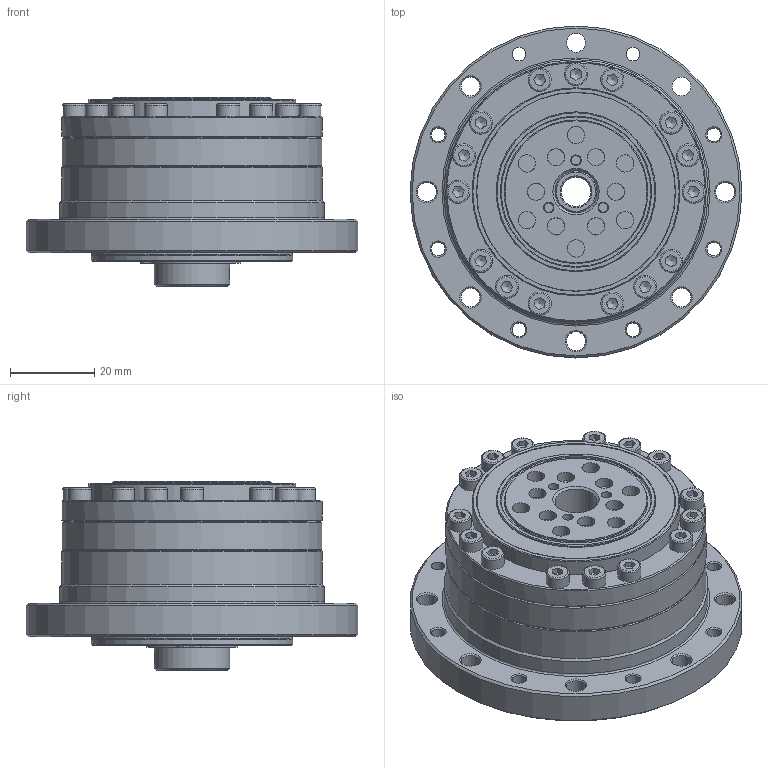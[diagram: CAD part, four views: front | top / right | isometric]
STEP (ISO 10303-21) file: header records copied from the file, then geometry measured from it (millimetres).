
FILE_DESCRIPTION(/* description */ (''),/* implementation_level */ '2;1');
FILE_NAME(/* name */ 'S:\TB00F\研發課二組\機密級\97.\X2\540C4EC151714EAB5340\X0\ (機密級)\H11\欣怡\2023專案追蹤\2.型錄\模型\\X2\5B987DB2\X0\3D檔(NEW)\DGC-PO\DGC-17-XX-PO.stp',/* time_stamp */ '2024-09-13T09:17:52+08:00',/* author */ ('bb1128.zheng'),/* organization */ (''),/* preprocessor_version */ 'ST-DEVELOPER v15.2',/* originating_system */ 'Autodesk Inventor 2014',/* authorisation */ '');
FILE_SCHEMA (('AUTOMOTIVE_DESIGN { 1 0 10303 214 3 1 1 }'));
Length unit declared in the file: centimetre
Products named in the file (1): DGC-17-PO
Bounding box: 79 x 79 x 45 mm (x, y, z)
Volume: 109265.2 mm3; surface area: 33432.1 mm2
Topology: 1 solids, 18 shells, 719 faces, 1716 edges, 1075 vertices
Faces by surface type: plane 287, cylinder 215, cone 106, torus 86, sphere 23, bspline 2
Full cylindrical faces by diameter (mm): 1.7 x2, 2.459 x2, 2.5 x3, 3 x3, 3.242 x8, 4.134 x12, 4.5 x8, 5 x6, 5.5 x21, 7 x1, 8 x1, 8.5 x6, 10 x2, 17 x1, 18 x2, 18.5 x1, 18.6 x1, 24.5 x1, 27 x1, 29 x1, 30.3 x1, 30.457 x1, 32.46 x1, 33.8 x1, 36 x1, 38 x2, 38.018 x2, 39.66 x1, 41.637 x1, 41.72 x1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
Entity records: 19107 total; most frequent: CARTESIAN_POINT 3585, DIRECTION 3356, ORIENTED_EDGE 2662, AXIS2_PLACEMENT_3D 1492, EDGE_CURVE 1284, EDGE_LOOP 1098, VERTEX_POINT 918, CIRCLE 774
